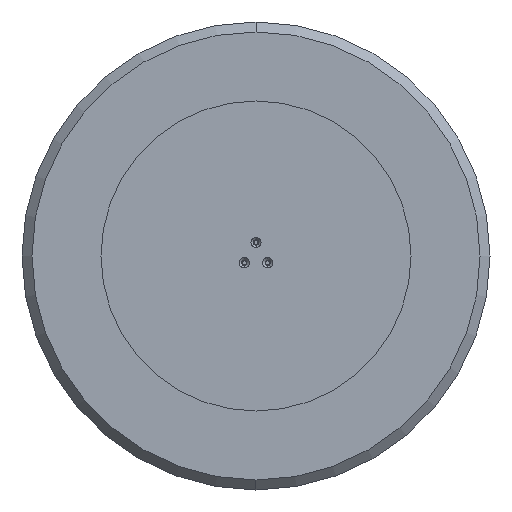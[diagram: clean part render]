
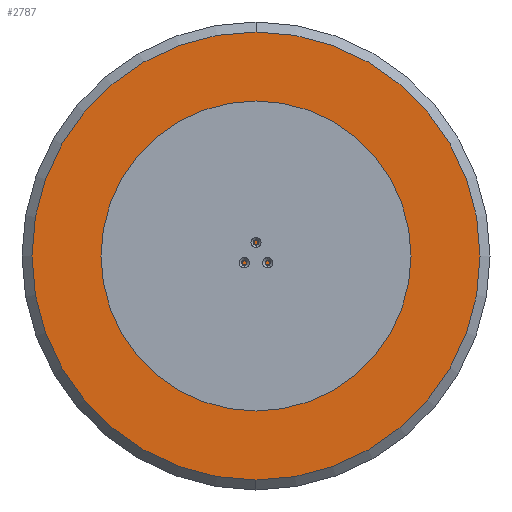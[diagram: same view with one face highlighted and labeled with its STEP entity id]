
A CAD part, front view. The second image highlights one B-rep face of the part: STEP entity #2787.
In plain terms, the highlighted planar face has unit normal (0, -1, 0).
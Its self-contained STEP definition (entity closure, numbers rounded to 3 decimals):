
#81 = ORIENTED_EDGE ( 'NONE', *, *, #3276, .F. ) ;
#93 = EDGE_CURVE ( 'NONE', #459, #3068, #1506, .T. ) ;
#121 = ORIENTED_EDGE ( 'NONE', *, *, #1904, .F. ) ;
#128 = EDGE_CURVE ( 'NONE', #3061, #441, #596, .T. ) ;
#177 = DIRECTION ( 'NONE',  ( 0., -1., 0. ) ) ;
#248 = CARTESIAN_POINT ( 'NONE',  ( 0., 0., 0. ) ) ;
#336 = AXIS2_PLACEMENT_3D ( 'NONE', #248, #2593, #2301 ) ;
#356 = DIRECTION ( 'NONE',  ( 0., -1., 0. ) ) ;
#427 = EDGE_CURVE ( 'NONE', #441, #3061, #1080, .T. ) ;
#441 = VERTEX_POINT ( 'NONE', #3638 ) ;
#459 = VERTEX_POINT ( 'NONE', #3035 ) ;
#483 = VERTEX_POINT ( 'NONE', #1301 ) ;
#524 = CIRCLE ( 'NONE', #1724, 3.4 ) ;
#545 = AXIS2_PLACEMENT_3D ( 'NONE', #3428, #3441, #1947 ) ;
#547 = FACE_BOUND ( 'NONE', #2445, .T. ) ;
#551 = DIRECTION ( 'NONE',  ( 0., 0., -1. ) ) ;
#587 = DIRECTION ( 'NONE',  ( 0., -1., 0. ) ) ;
#596 = CIRCLE ( 'NONE', #1986, 3.4 ) ;
#612 = DIRECTION ( 'NONE',  ( 0., 0., -1. ) ) ;
#623 = ORIENTED_EDGE ( 'NONE', *, *, #1707, .F. ) ;
#686 = CARTESIAN_POINT ( 'NONE',  ( -95., 0., -58.248 ) ) ;
#712 = DIRECTION ( 'NONE',  ( 0., 0., -1. ) ) ;
#761 = AXIS2_PLACEMENT_3D ( 'NONE', #3177, #1678, #3392 ) ;
#762 = ORIENTED_EDGE ( 'NONE', *, *, #3168, .F. ) ;
#819 = CARTESIAN_POINT ( 'NONE',  ( 0., 0., 0. ) ) ;
#853 = AXIS2_PLACEMENT_3D ( 'NONE', #1387, #3677, #1934 ) ;
#862 = DIRECTION ( 'NONE',  ( 0., 0., -1. ) ) ;
#939 = CIRCLE ( 'NONE', #336, 383. ) ;
#965 = CARTESIAN_POINT ( 'NONE',  ( 0., 0., -383. ) ) ;
#984 = EDGE_LOOP ( 'NONE', ( #2616, #1918 ) ) ;
#992 = AXIS2_PLACEMENT_3D ( 'NONE', #1414, #2619, #3737 ) ;
#1001 = VERTEX_POINT ( 'NONE', #3198 ) ;
#1029 = CARTESIAN_POINT ( 'NONE',  ( 0., 0., 109.697 ) ) ;
#1080 = CIRCLE ( 'NONE', #1571, 3.4 ) ;
#1136 = FACE_BOUND ( 'NONE', #2044, .T. ) ;
#1142 = ORIENTED_EDGE ( 'NONE', *, *, #128, .F. ) ;
#1301 = CARTESIAN_POINT ( 'NONE',  ( 0., 0., 383. ) ) ;
#1353 = CIRCLE ( 'NONE', #2874, 3.4 ) ;
#1387 = CARTESIAN_POINT ( 'NONE',  ( 0., 0., 0. ) ) ;
#1414 = CARTESIAN_POINT ( 'NONE',  ( -95., 0., -54.848 ) ) ;
#1506 = CIRCLE ( 'NONE', #545, 3.4 ) ;
#1548 = CARTESIAN_POINT ( 'NONE',  ( 95., 0., -54.848 ) ) ;
#1571 = AXIS2_PLACEMENT_3D ( 'NONE', #1548, #177, #712 ) ;
#1591 = EDGE_CURVE ( 'NONE', #1001, #2776, #2852, .T. ) ;
#1610 = AXIS2_PLACEMENT_3D ( 'NONE', #2669, #356, #612 ) ;
#1678 = DIRECTION ( 'NONE',  ( 0., -1., 0. ) ) ;
#1707 = EDGE_CURVE ( 'NONE', #2428, #2179, #2226, .T. ) ;
#1724 = AXIS2_PLACEMENT_3D ( 'NONE', #819, #2866, #1742 ) ;
#1742 = DIRECTION ( 'NONE',  ( 0., 0., -1. ) ) ;
#1808 = EDGE_CURVE ( 'NONE', #2601, #483, #2574, .T. ) ;
#1904 = EDGE_CURVE ( 'NONE', #2179, #2428, #3698, .T. ) ;
#1918 = ORIENTED_EDGE ( 'NONE', *, *, #1808, .T. ) ;
#1934 = DIRECTION ( 'NONE',  ( 0., 0., -1. ) ) ;
#1947 = DIRECTION ( 'NONE',  ( 0., 0., -1. ) ) ;
#1986 = AXIS2_PLACEMENT_3D ( 'NONE', #3692, #3678, #551 ) ;
#2009 = FACE_BOUND ( 'NONE', #2779, .T. ) ;
#2044 = EDGE_LOOP ( 'NONE', ( #2783, #762 ) ) ;
#2179 = VERTEX_POINT ( 'NONE', #686 ) ;
#2226 = CIRCLE ( 'NONE', #2532, 3.4 ) ;
#2251 = CARTESIAN_POINT ( 'NONE',  ( 0., 0., -3.4 ) ) ;
#2294 = EDGE_LOOP ( 'NONE', ( #81, #3249 ) ) ;
#2301 = DIRECTION ( 'NONE',  ( 0., 0., -1. ) ) ;
#2428 = VERTEX_POINT ( 'NONE', #3106 ) ;
#2445 = EDGE_LOOP ( 'NONE', ( #121, #623 ) ) ;
#2521 = PLANE ( 'NONE',  #761 ) ;
#2532 = AXIS2_PLACEMENT_3D ( 'NONE', #2912, #587, #862 ) ;
#2574 = CIRCLE ( 'NONE', #1610, 383. ) ;
#2593 = DIRECTION ( 'NONE',  ( 0., -1., 0. ) ) ;
#2601 = VERTEX_POINT ( 'NONE', #965 ) ;
#2616 = ORIENTED_EDGE ( 'NONE', *, *, #2850, .T. ) ;
#2619 = DIRECTION ( 'NONE',  ( 0., -1., 0. ) ) ;
#2669 = CARTESIAN_POINT ( 'NONE',  ( 0., 0., 0. ) ) ;
#2678 = ORIENTED_EDGE ( 'NONE', *, *, #427, .F. ) ;
#2776 = VERTEX_POINT ( 'NONE', #2251 ) ;
#2779 = EDGE_LOOP ( 'NONE', ( #1142, #2678 ) ) ;
#2783 = ORIENTED_EDGE ( 'NONE', *, *, #93, .F. ) ;
#2787 = ADVANCED_FACE ( 'NONE', ( #547, #1136, #2009, #2821, #3422 ), #2521, .T. ) ;
#2821 = FACE_OUTER_BOUND ( 'NONE', #984, .T. ) ;
#2850 = EDGE_CURVE ( 'NONE', #483, #2601, #939, .T. ) ;
#2852 = CIRCLE ( 'NONE', #853, 3.4 ) ;
#2866 = DIRECTION ( 'NONE',  ( 0., -1., 0. ) ) ;
#2874 = AXIS2_PLACEMENT_3D ( 'NONE', #1029, #3367, #3293 ) ;
#2912 = CARTESIAN_POINT ( 'NONE',  ( -95., 0., -54.848 ) ) ;
#3035 = CARTESIAN_POINT ( 'NONE',  ( 0., 0., 106.297 ) ) ;
#3037 = CARTESIAN_POINT ( 'NONE',  ( 95., 0., -58.248 ) ) ;
#3061 = VERTEX_POINT ( 'NONE', #3037 ) ;
#3068 = VERTEX_POINT ( 'NONE', #3322 ) ;
#3106 = CARTESIAN_POINT ( 'NONE',  ( -95., 0., -51.448 ) ) ;
#3168 = EDGE_CURVE ( 'NONE', #3068, #459, #1353, .T. ) ;
#3177 = CARTESIAN_POINT ( 'NONE',  ( 0., 0., 0. ) ) ;
#3198 = CARTESIAN_POINT ( 'NONE',  ( 0., 0., 3.4 ) ) ;
#3249 = ORIENTED_EDGE ( 'NONE', *, *, #1591, .F. ) ;
#3276 = EDGE_CURVE ( 'NONE', #2776, #1001, #524, .T. ) ;
#3293 = DIRECTION ( 'NONE',  ( 0., 0., -1. ) ) ;
#3322 = CARTESIAN_POINT ( 'NONE',  ( 0., 0., 113.097 ) ) ;
#3367 = DIRECTION ( 'NONE',  ( 0., -1., 0. ) ) ;
#3392 = DIRECTION ( 'NONE',  ( 0., 0., -1. ) ) ;
#3422 = FACE_BOUND ( 'NONE', #2294, .T. ) ;
#3428 = CARTESIAN_POINT ( 'NONE',  ( 0., 0., 109.697 ) ) ;
#3441 = DIRECTION ( 'NONE',  ( 0., -1., 0. ) ) ;
#3638 = CARTESIAN_POINT ( 'NONE',  ( 95., 0., -51.448 ) ) ;
#3677 = DIRECTION ( 'NONE',  ( 0., -1., 0. ) ) ;
#3678 = DIRECTION ( 'NONE',  ( 0., -1., 0. ) ) ;
#3692 = CARTESIAN_POINT ( 'NONE',  ( 95., 0., -54.848 ) ) ;
#3698 = CIRCLE ( 'NONE', #992, 3.4 ) ;
#3737 = DIRECTION ( 'NONE',  ( 0., 0., -1. ) ) ;
